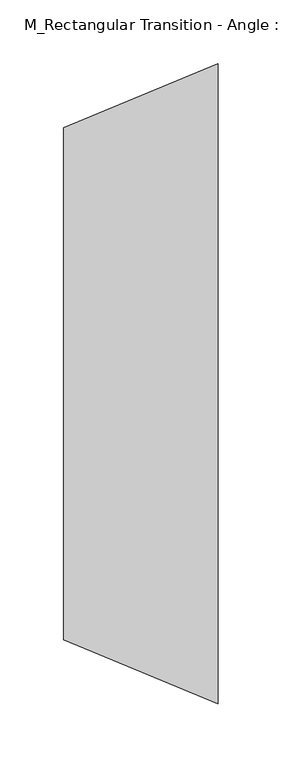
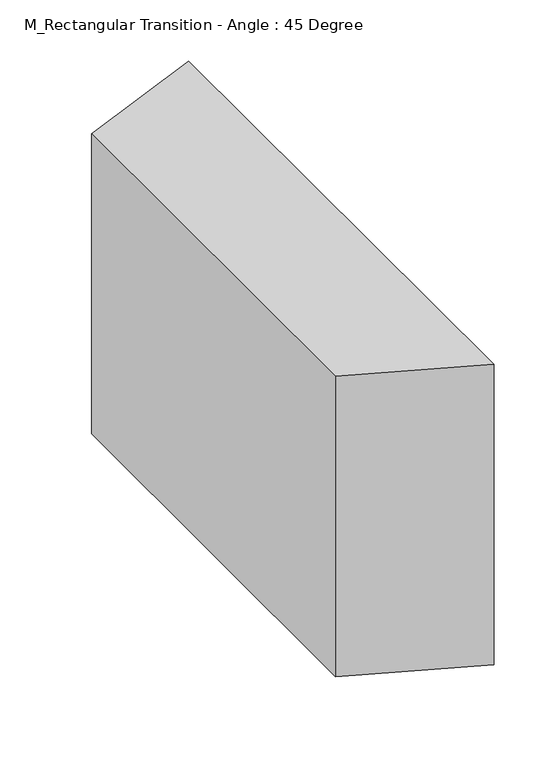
"""IFC4 building model written with IfcOpenShell, lengths in millimetres: duct fitting geometry, M_Rectangular Transition - Angle : 45 Degree."""

from ifc_helpers import new_model, si_unit, frame, origin, place, context, project, spatial, polyline, outline, extrude, source, transform, mapped, element, save


def m_rectangular_transition_angle_45_degree_130e6ca1(model_context):
    return source(origin(), model_context, "Body", "SweptSolid", [
        extrude(outline(polyline([(-200.0, 0.0), (200.0, 0.0), (250.0, -120.7106781), (-250.0, -120.7106781), (-200.0, 0.0)])), frame((0.0, 0.0, -150.0), z_axis=(-2.559191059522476e-12, 0.0, 1.0), x_axis=(0.0, 1.0, 0.0)), (0.0, 0.0, 1.0), 300.0),
        extrude(outline(polyline([(0.0, -200.0), (0.0, 200.0), (120.7106781, 250.0), (120.7106781, -250.0), (0.0, -200.0)])), frame((0.0, 0.0, -150.0), z_axis=(0.0, 0.0, 1.0), x_axis=(1.0, 0.0, 0.0)), (0.0, 0.0, 1.0), 300.0),
        extrude(outline(polyline([(0.0, -200.0), (0.0, 200.0), (120.7106781, 250.0), (120.7106781, -250.0), (0.0, -200.0)])), frame((0.0, 0.0, -150.0), z_axis=(0.0, 0.0, 1.0), x_axis=(1.0, 0.0, 0.0)), (0.0, 0.0, 1.0), 300.0),
    ])


if __name__ == "__main__":
    model = new_model("IFC4")
    model_context = context("Model", 3, world=origin())
    ifc_project = project(units=[si_unit("LENGTHUNIT", "METRE", prefix="MILLI")], contexts=[model_context])
    site = spatial("IfcSite", under=ifc_project)
    building = spatial("IfcBuilding", under=site)
    placement = place(None, origin())
    m_rectangular_transition_angle_45_degree_shape = m_rectangular_transition_angle_45_degree_130e6ca1(model_context)
    element("IfcDuctFitting", 1, ObjectType="M_Rectangular Transition - Angle : 45 Degree", at=placement, inside=building, context=model_context, shape_type="MappedRepresentation", body=[
        mapped(m_rectangular_transition_angle_45_degree_shape, transform((0.0, 0.0, 0.0), x_axis=(1.0, 0.0, 0.0), y_axis=(0.0, 1.0, 0.0), z_axis=(0.0, 0.0, 1.0))),
    ])
    save(model, "model.ifc")
